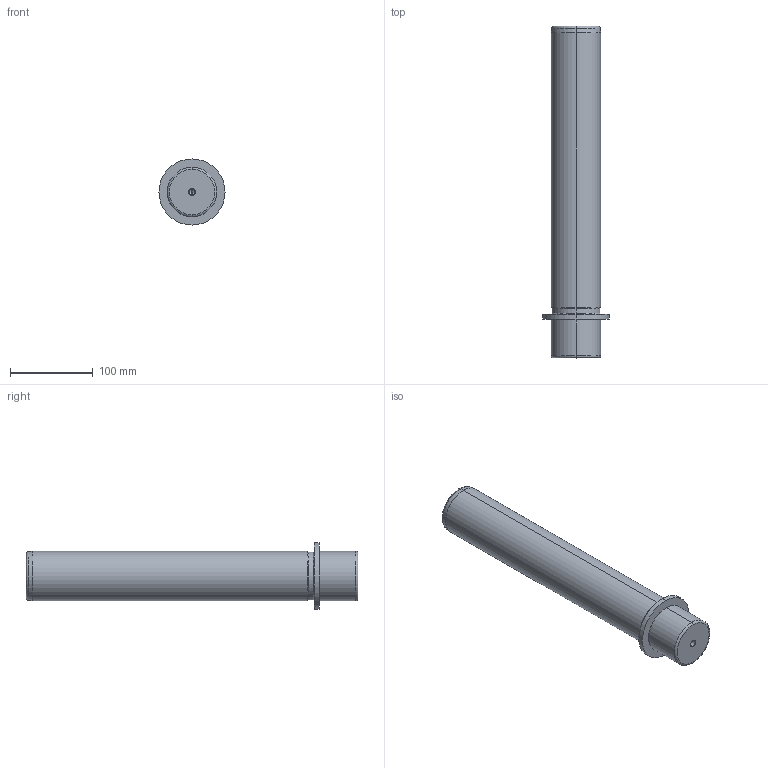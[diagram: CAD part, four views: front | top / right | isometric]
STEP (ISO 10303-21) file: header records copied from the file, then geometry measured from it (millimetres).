
FILE_DESCRIPTION (( 'STEP AP214' ), '1' );
FILE_NAME ('COLUMNA SP103-60-355.STEP', '2018-11-26T09:12:39', ( '' ), ( '' ), 'SwSTEP 2.0', 'SolidWorks 2018', '' );
FILE_SCHEMA (( 'AUTOMOTIVE_DESIGN' ));
Length unit declared in the file: millimetre
Products named in the file (1): COLUMNA SP103-60-355
Bounding box: 80 x 402 x 80 mm (x, y, z)
Volume: 1145568.1 mm3; surface area: 86862.7 mm2
Topology: 1 solids, 1 shells, 43 faces, 88 edges, 50 vertices
Faces by surface type: cylinder 18, cone 14, plane 7, torus 4
Entity records: 1140 total; most frequent: DIRECTION 224, CARTESIAN_POINT 178, ORIENTED_EDGE 168, AXIS2_PLACEMENT_3D 96, EDGE_CURVE 84, CIRCLE 52, EDGE_LOOP 50, VERTEX_POINT 50
